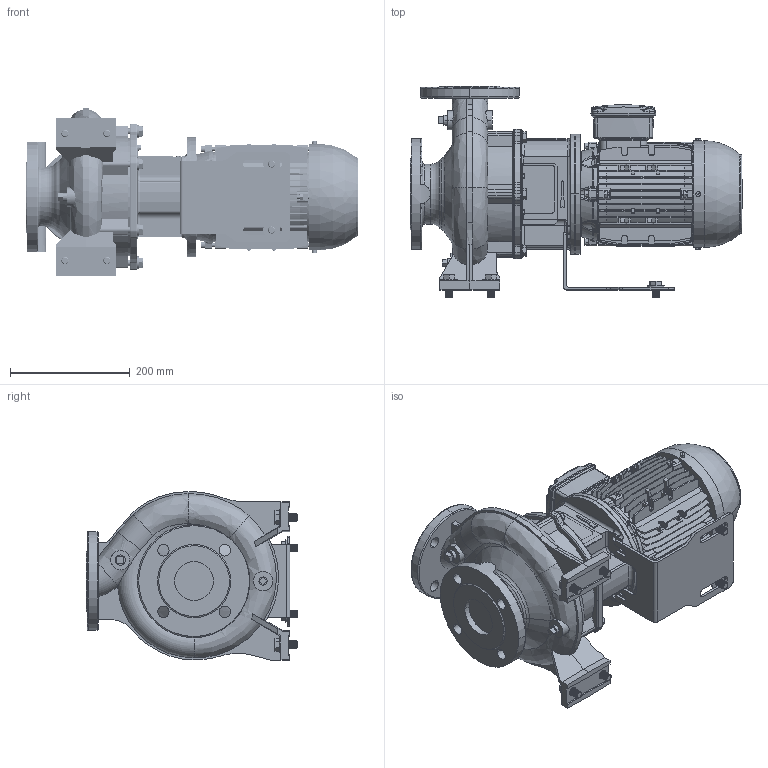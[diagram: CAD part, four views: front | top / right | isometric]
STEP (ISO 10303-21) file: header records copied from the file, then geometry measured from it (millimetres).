
FILE_DESCRIPTION (( 'STEP AP214' ), '1' );
FILE_NAME ('GSD4 50-160_1.1 & 1.5_(90SL)_W21.STEP', '2026-06-18T06:14:33', ( '' ), ( '' ), 'SwSTEP 2.0', 'SolidWorks 2024', '' );
FILE_SCHEMA (( 'AUTOMOTIVE_DESIGN' ));
Length unit declared in the file: millimetre
Products named in the file (7): GSD4 50-160_1.1 & 1.5_(90SL)_W21; CGSD1-4153; 90S_L ALIE3_W21T_B5; Parametric Flat Washer_M12; Parametric bolt_SFT-A295B; Parametric bolt_SFT-A299B; 50-160-90S_L_ﾃﾞﾌｫﾙﾄ
Assembly tree (15 placements, depth 2):
  GSD4 50-160_1.1 & 1.5_(90SL)_W21
    50-160-90S_L_ﾃﾞﾌｫﾙﾄ
    90S_L ALIE3_W21T_B5
    CGSD1-4153
    Parametric bolt_SFT-A299B  x4
    Parametric bolt_SFT-A295B  x2
    Parametric Flat Washer_M12  x6
Bounding box: 554 x 353 x 281.88 mm (x, y, z)
Volume: 13217839.1 mm3; surface area: 1122018.3 mm2
Topology: 17 solids, 21 shells, 3616 faces, 9514 edges, 6114 vertices
Faces by surface type: plane 1858, cylinder 1010, torus 304, bspline 255, cone 167, sphere 22
Entity records: 183795 total; most frequent: CARTESIAN_POINT 102914, ORIENTED_EDGE 17670, DIRECTION 15586, EDGE_CURVE 8835, VERTEX_POINT 5701, AXIS2_PLACEMENT_3D 5239, LINE 5108, VECTOR 5108
